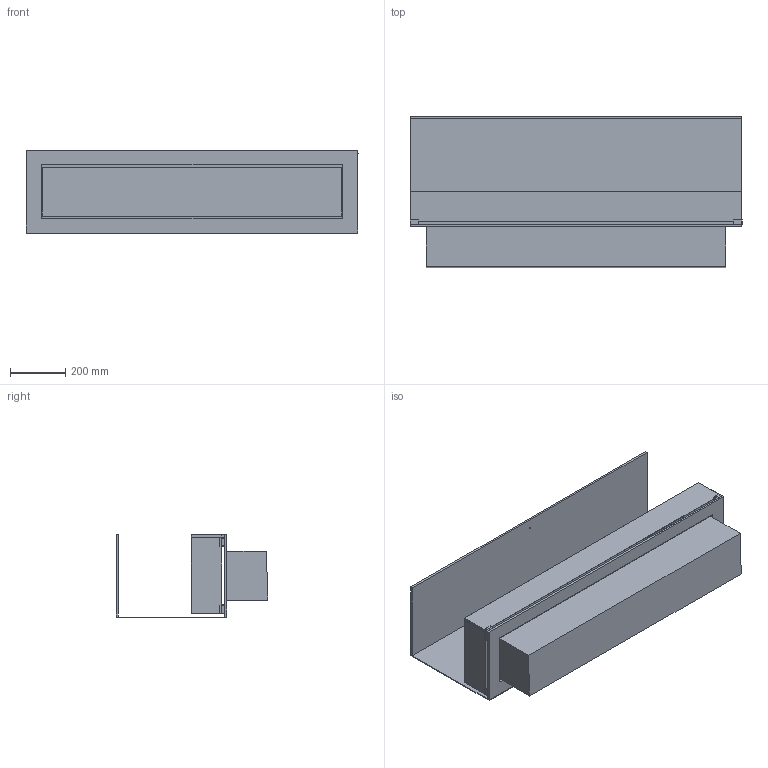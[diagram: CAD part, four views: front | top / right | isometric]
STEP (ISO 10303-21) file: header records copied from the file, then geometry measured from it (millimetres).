
FILE_DESCRIPTION (( 'STEP AP203' ), '1' );
FILE_NAME ('Montreal open to front and 2 sides 1200 F6.STEP', '2024-03-22T10:34:18', ( '' ), ( '' ), 'SwSTEP 2.0', 'SolidWorks 2023', '' );
FILE_SCHEMA (( 'CONFIG_CONTROL_DESIGN' ));
Length unit declared in the file: millimetre
Products named in the file (9): Part4^P&G -1120SI Montreal Single AUTOShowroom -look book; Denver F6_uden glas; 3mm alu Bag - P&G -1120SIShowroom -look book; 8mm alu Top - P&G -1120SIShowroom -look book; 8mm alu Bund - P&G -1120SIShowroom -look book; Glas holder flad med sider 10mm; Part3^P&G -1120SI Montreal Single AUTOShowroom -look book; Montreal open to front and 2 sides 1200 F6; Part2^P&G -1120SI Montreal Single AUTOShowroom -look book
Assembly tree (14 placements, depth 2):
  Part3^P&G -1120SI Montreal Single AUTOShowroom -look book
  Montreal open to front and 2 sides 1200 F6
    8mm alu Top - P&G -1120SIShowroom -look book
    8mm alu Bund - P&G -1120SIShowroom -look book
    3mm alu Bag - P&G -1120SIShowroom -look book
    Glas holder flad med sider 10mm  x7
    Part2^P&G -1120SI Montreal Single AUTOShowroom -look book  x2
    Part4^P&G -1120SI Montreal Single AUTOShowroom -look book
    Denver F6_uden glas
Bounding box: 1200 x 548 x 303 mm (x, y, z)
Volume: 37717157.6 mm3; surface area: 3778841.4 mm2
Topology: 18 solids, 18 shells, 242 faces, 529 edges, 330 vertices
Faces by surface type: plane 216, cylinder 26
Entity records: 4821 total; most frequent: CARTESIAN_POINT 642, DIRECTION 639, ORIENTED_EDGE 602, EDGE_CURVE 301, VECTOR 273, LINE 273, VERTEX_POINT 186, AXIS2_PLACEMENT_3D 183
